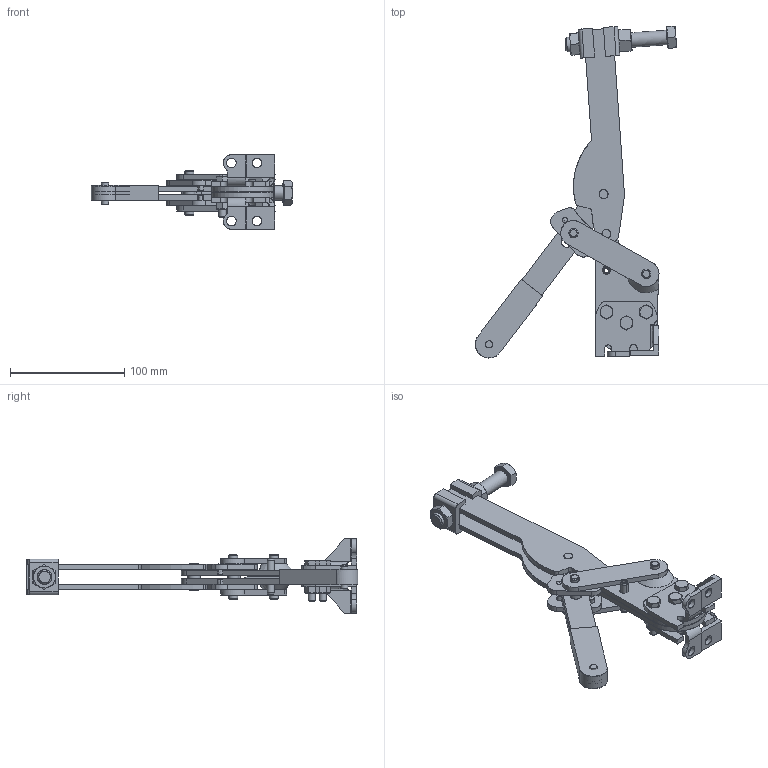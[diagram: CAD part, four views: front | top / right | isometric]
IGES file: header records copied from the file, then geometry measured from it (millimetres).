
Start section:  Autodesk DirectConnect version 7.0.27.0 ---- IGES version 5.3
Global section: file name: C:\Users\Nick\Desktop\CASB-800\3D\CASB-800 Open.igs; native system: Autodesk DirectConnect 7.0.27.0; preprocessor: 7.0.27.0; author: Nick; organization: Unknown; date: 20150814.154830; units: inch
Bounding box: 176.26 x 290.77 x 65.23 mm (x, y, z)
Surface area: 136561.4 mm2 (no closed solid volume)
Topology: 0 solids, 0 shells, 630 faces, 3919 edges, 3867 vertices
Faces by surface type: bspline 630
